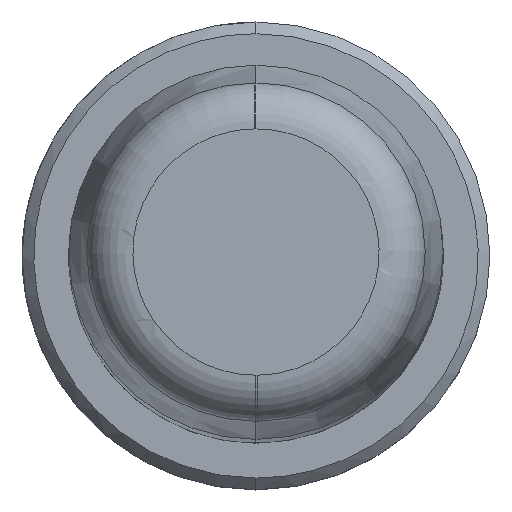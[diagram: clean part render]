
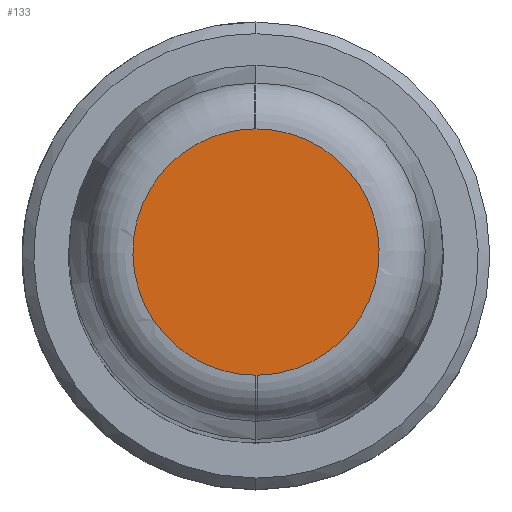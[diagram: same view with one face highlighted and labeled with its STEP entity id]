
A CAD part, top view. The second image highlights one B-rep face of the part: STEP entity #133.
In plain terms, the highlighted planar face has unit normal (0, 0, 1).
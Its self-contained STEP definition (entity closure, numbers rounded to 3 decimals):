
#52=CARTESIAN_POINT('Axis2P3D Location',(0.,0.,100.)) ;
#58=CARTESIAN_POINT('Control Point',(0.052,-5.264,100.)) ;
#59=CARTESIAN_POINT('Control Point',(0.042,-5.264,100.)) ;
#60=CARTESIAN_POINT('Control Point',(0.031,-5.264,100.)) ;
#61=CARTESIAN_POINT('Control Point',(0.021,-5.264,100.)) ;
#62=CARTESIAN_POINT('Control Point',(0.01,-5.264,100.)) ;
#63=CARTESIAN_POINT('Control Point',(0.,-5.264,100.)) ;
#64=CARTESIAN_POINT('Vertex',(0.052,-5.264,100.)) ;
#66=CARTESIAN_POINT('Vertex',(0.,-5.264,100.)) ;
#70=CARTESIAN_POINT('Control Point',(0.,5.264,100.)) ;
#71=CARTESIAN_POINT('Control Point',(0.562,5.264,100.)) ;
#72=CARTESIAN_POINT('Control Point',(1.124,5.189,100.)) ;
#73=CARTESIAN_POINT('Control Point',(1.673,5.039,100.)) ;
#74=CARTESIAN_POINT('Control Point',(2.717,4.596,100.)) ;
#75=CARTESIAN_POINT('Control Point',(3.608,3.895,100.)) ;
#76=CARTESIAN_POINT('Control Point',(4.004,3.487,100.)) ;
#77=CARTESIAN_POINT('Control Point',(4.677,2.574,100.)) ;
#78=CARTESIAN_POINT('Control Point',(5.088,1.517,100.)) ;
#79=CARTESIAN_POINT('Control Point',(5.221,0.964,100.)) ;
#80=CARTESIAN_POINT('Control Point',(5.336,-0.164,100.)) ;
#81=CARTESIAN_POINT('Control Point',(5.152,-1.283,100.)) ;
#82=CARTESIAN_POINT('Control Point',(4.985,-1.826,100.)) ;
#83=CARTESIAN_POINT('Control Point',(4.511,-2.856,100.)) ;
#84=CARTESIAN_POINT('Control Point',(3.783,-3.726,100.)) ;
#85=CARTESIAN_POINT('Control Point',(3.362,-4.109,100.)) ;
#86=CARTESIAN_POINT('Control Point',(2.492,-4.711,100.)) ;
#87=CARTESIAN_POINT('Control Point',(1.503,-5.08,100.)) ;
#88=CARTESIAN_POINT('Control Point',(1.025,-5.198,100.)) ;
#89=CARTESIAN_POINT('Control Point',(0.539,-5.259,100.)) ;
#90=CARTESIAN_POINT('Control Point',(0.052,-5.264,100.)) ;
#91=CARTESIAN_POINT('Vertex',(0.,5.264,100.)) ;
#95=CARTESIAN_POINT('Control Point',(-0.052,5.264,100.)) ;
#96=CARTESIAN_POINT('Control Point',(-0.042,5.264,100.)) ;
#97=CARTESIAN_POINT('Control Point',(-0.031,5.264,100.)) ;
#98=CARTESIAN_POINT('Control Point',(-0.021,5.264,100.)) ;
#99=CARTESIAN_POINT('Control Point',(-0.01,5.264,100.)) ;
#100=CARTESIAN_POINT('Control Point',(0.,5.264,100.)) ;
#101=CARTESIAN_POINT('Vertex',(-0.052,5.264,100.)) ;
#105=CARTESIAN_POINT('Control Point',(0.,-5.264,100.)) ;
#106=CARTESIAN_POINT('Control Point',(-0.562,-5.264,100.)) ;
#107=CARTESIAN_POINT('Control Point',(-1.124,-5.189,100.)) ;
#108=CARTESIAN_POINT('Control Point',(-1.673,-5.039,100.)) ;
#109=CARTESIAN_POINT('Control Point',(-2.717,-4.596,100.)) ;
#110=CARTESIAN_POINT('Control Point',(-3.608,-3.895,100.)) ;
#111=CARTESIAN_POINT('Control Point',(-4.004,-3.487,100.)) ;
#112=CARTESIAN_POINT('Control Point',(-4.677,-2.574,100.)) ;
#113=CARTESIAN_POINT('Control Point',(-5.088,-1.517,100.)) ;
#114=CARTESIAN_POINT('Control Point',(-5.221,-0.964,100.)) ;
#115=CARTESIAN_POINT('Control Point',(-5.336,0.164,100.)) ;
#116=CARTESIAN_POINT('Control Point',(-5.152,1.283,100.)) ;
#117=CARTESIAN_POINT('Control Point',(-4.985,1.826,100.)) ;
#118=CARTESIAN_POINT('Control Point',(-4.511,2.856,100.)) ;
#119=CARTESIAN_POINT('Control Point',(-3.783,3.726,100.)) ;
#120=CARTESIAN_POINT('Control Point',(-3.362,4.109,100.)) ;
#121=CARTESIAN_POINT('Control Point',(-2.492,4.711,100.)) ;
#122=CARTESIAN_POINT('Control Point',(-1.503,5.08,100.)) ;
#123=CARTESIAN_POINT('Control Point',(-1.025,5.198,100.)) ;
#124=CARTESIAN_POINT('Control Point',(-0.539,5.259,100.)) ;
#125=CARTESIAN_POINT('Control Point',(-0.052,5.264,100.)) ;
#53=DIRECTION('Axis2P3D Direction',(0.,0.,1.)) ;
#54=DIRECTION('Axis2P3D XDirection',(0.,-1.,0.)) ;
#55=AXIS2_PLACEMENT_3D('Plane Axis2P3D',#52,#53,#54) ;
#128=ORIENTED_EDGE('',*,*,#68,.F.) ;
#129=ORIENTED_EDGE('',*,*,#93,.F.) ;
#130=ORIENTED_EDGE('',*,*,#103,.F.) ;
#131=ORIENTED_EDGE('',*,*,#126,.F.) ;
#133=ADVANCED_FACE('MANIFOLD_SOLID_BREP #450',(#132),#56,.T.) ;
#57=B_SPLINE_CURVE_WITH_KNOTS('',5,(#58,#59,#60,#61,#62,#63),.UNSPECIFIED.,.F.,.U.,(6,6),(23.313,23.386),.UNSPECIFIED.) ;
#69=B_SPLINE_CURVE_WITH_KNOTS('',5,(#70,#71,#72,#73,#74,#75,#76,#77,#78,#79,#80,#81,#82,#83,#84,#85,#86,#87,#88,#89,#90),.UNSPECIFIED.,.F.,.U.,(6,3,3,3,3,3,6),(0.,3.974,7.948,11.921,15.895,19.869,23.313),.UNSPECIFIED.) ;
#94=B_SPLINE_CURVE_WITH_KNOTS('',5,(#95,#96,#97,#98,#99,#100),.UNSPECIFIED.,.F.,.U.,(6,6),(23.313,23.386),.UNSPECIFIED.) ;
#104=B_SPLINE_CURVE_WITH_KNOTS('',5,(#105,#106,#107,#108,#109,#110,#111,#112,#113,#114,#115,#116,#117,#118,#119,#120,#121,#122,#123,#124,#125),.UNSPECIFIED.,.F.,.U.,(6,3,3,3,3,3,6),(0.,3.974,7.948,11.921,15.895,19.869,23.313),.UNSPECIFIED.) ;
#68=EDGE_CURVE('',#65,#67,#57,.T.) ;
#93=EDGE_CURVE('',#92,#65,#69,.T.) ;
#103=EDGE_CURVE('',#102,#92,#94,.T.) ;
#126=EDGE_CURVE('',#67,#102,#104,.T.) ;
#127=EDGE_LOOP('',(#128,#129,#130,#131)) ;
#132=FACE_OUTER_BOUND('',#127,.T.) ;
#56=PLANE('Plane',#55) ;
#65=VERTEX_POINT('',#64) ;
#67=VERTEX_POINT('',#66) ;
#92=VERTEX_POINT('',#91) ;
#102=VERTEX_POINT('',#101) ;
